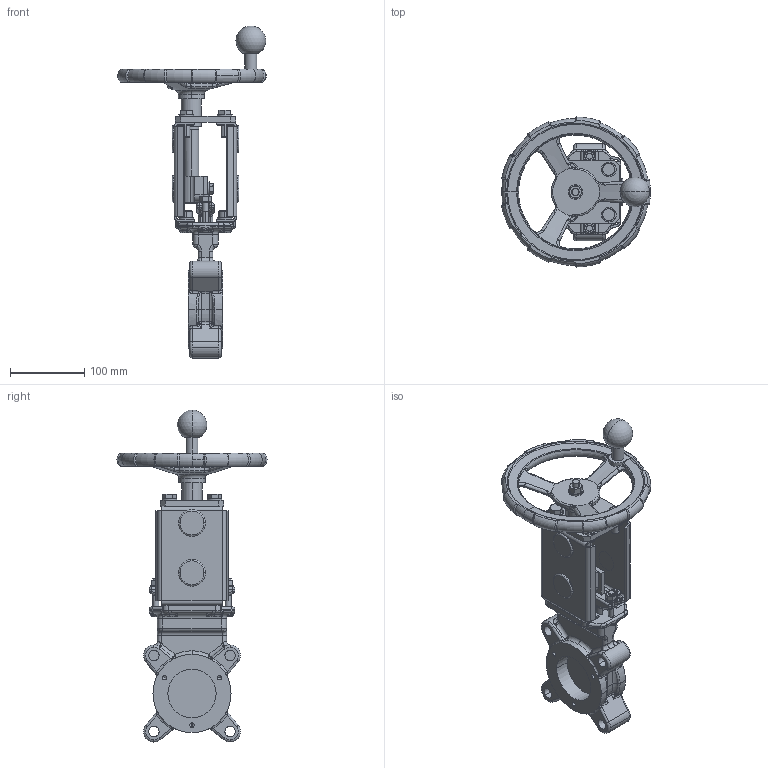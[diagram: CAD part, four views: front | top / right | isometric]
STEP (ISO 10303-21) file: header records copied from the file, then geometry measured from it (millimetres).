
FILE_DESCRIPTION(('STEP AP203'),'1');
FILE_NAME('G:/KONSTRUK/3-d block för CD/WB VALVE/HAND WHEEL/65/WB11-DN65-PN10-HW.stp','2012-11-30T12:39:04',(' '),(' '),'Spatial InterOp 3D',' ',' ');
FILE_SCHEMA(('CONFIG_CONTROL_DESIGN'));
Length unit declared in the file: millimetre
Products named in the file (11): 1; 2; 3; 4; 5; 6; 7; 8; 9; 10; 11
Bounding box: 200.06 x 201.96 x 446.77 mm (x, y, z)
Volume: 1197227.5 mm3; surface area: 303438.7 mm2
Topology: 11 solids, 19 shells, 1401 faces, 3341 edges, 2016 vertices
Faces by surface type: cylinder 410, plane 393, bspline 222, cone 181, torus 173, sphere 22
Entity records: 103611 total; most frequent: CARTESIAN_POINT 72669, ORIENTED_EDGE 6590, DIRECTION 5901, EDGE_CURVE 3295, AXIS2_PLACEMENT_3D 2387, VERTEX_POINT 2015, EDGE_LOOP 1514, ADVANCED_FACE 1400
